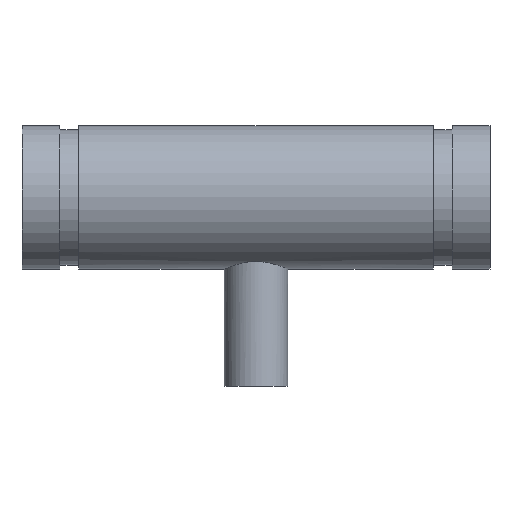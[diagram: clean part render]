
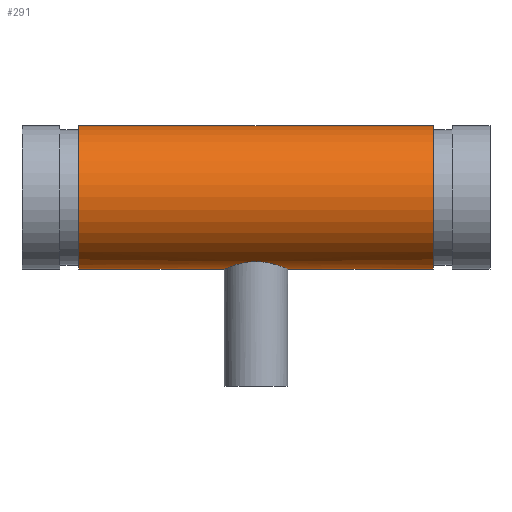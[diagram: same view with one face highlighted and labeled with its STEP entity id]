
A CAD part, top view. The second image highlights one B-rep face of the part: STEP entity #291.
In plain terms, the highlighted cylindrical face has radius 30.163 mm (diameter 60.325 mm), a full revolution.
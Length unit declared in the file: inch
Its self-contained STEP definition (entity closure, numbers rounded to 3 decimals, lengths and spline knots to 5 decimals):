
#45=B_SPLINE_CURVE_WITH_KNOTS('',3,(#511,#512,#513,#514,#515,#516,#517,
#518,#519,#520,#521,#522,#523,#524,#525,#526,#527,#528,#529,#530,#531,#532,
#533,#534,#535,#536,#537,#538,#539,#540,#541,#542,#543,#544,#545,#546,#547,
#548),.UNSPECIFIED.,.F.,.F.,(4,2,2,2,2,2,2,2,2,2,2,2,2,2,2,2,2,2,4),(0.,
0.25524,0.51049,1.02097,1.53066,1.7855,
2.04035,2.29519,2.55003,3.05972,3.57021,
3.82545,4.0807,4.33594,4.59118,5.10167,
5.61136,5.8662,6.12104),.UNSPECIFIED.);
#46=B_SPLINE_CURVE_WITH_KNOTS('',3,(#549,#550,#551,#552,#553,#554,#555,
#556,#557,#558,#559,#560,#561,#562),.UNSPECIFIED.,.F.,.F.,(4,2,2,2,2,2,
4),(6.12104,6.37589,6.63073,7.14042,
7.6509,7.90615,8.16139),.UNSPECIFIED.);
#51=LINE('',#508,#59);
#59=VECTOR('',#410,1.1875);
#67=CYLINDRICAL_SURFACE('',#338,1.1875);
#77=FACE_BOUND('',#108,.T.);
#88=FACE_OUTER_BOUND('',#107,.T.);
#107=EDGE_LOOP('',(#221,#222,#223,#224));
#108=EDGE_LOOP('',(#225,#226));
#121=CIRCLE('',#321,1.1875);
#132=CIRCLE('',#337,1.1875);
#141=VERTEX_POINT('',#476);
#152=VERTEX_POINT('',#505);
#153=VERTEX_POINT('',#509);
#154=VERTEX_POINT('',#510);
#165=EDGE_CURVE('',#141,#141,#121,.T.);
#178=EDGE_CURVE('',#152,#152,#132,.T.);
#179=EDGE_CURVE('',#152,#141,#51,.T.);
#180=EDGE_CURVE('',#153,#154,#45,.T.);
#181=EDGE_CURVE('',#154,#153,#46,.T.);
#221=ORIENTED_EDGE('',*,*,#178,.T.);
#222=ORIENTED_EDGE('',*,*,#179,.T.);
#223=ORIENTED_EDGE('',*,*,#165,.T.);
#224=ORIENTED_EDGE('',*,*,#179,.F.);
#225=ORIENTED_EDGE('',*,*,#180,.F.);
#226=ORIENTED_EDGE('',*,*,#181,.F.);
#291=ADVANCED_FACE('',(#88,#77),#67,.T.);
#321=AXIS2_PLACEMENT_3D('',#477,#372,#373);
#337=AXIS2_PLACEMENT_3D('',#506,#406,#407);
#338=AXIS2_PLACEMENT_3D('',#507,#408,#409);
#372=DIRECTION('center_axis',(-1.,0.,0.));
#373=DIRECTION('ref_axis',(0.,-1.,0.));
#406=DIRECTION('center_axis',(1.,0.,0.));
#407=DIRECTION('ref_axis',(0.,-1.,0.));
#408=DIRECTION('center_axis',(-1.,0.,0.));
#409=DIRECTION('ref_axis',(0.,-1.,0.));
#410=DIRECTION('',(1.,0.,0.));
#476=CARTESIAN_POINT('',(2.942,1.1875,0.));
#477=CARTESIAN_POINT('Origin',(2.942,0.,0.));
#505=CARTESIAN_POINT('',(-2.942,1.1875,0.));
#506=CARTESIAN_POINT('Origin',(-2.942,0.,0.));
#507=CARTESIAN_POINT('Origin',(3.88,0.,0.));
#508=CARTESIAN_POINT('',(3.88,1.1875,0.));
#509=CARTESIAN_POINT('',(0.,-1.06514,-0.525));
#510=CARTESIAN_POINT('',(-0.525,-1.1875,0.));
#511=CARTESIAN_POINT('Ctrl Pts',(0.,-1.06514,
-0.525));
#512=CARTESIAN_POINT('Ctrl Pts',(0.0335,-1.06514,-0.525));
#513=CARTESIAN_POINT('Ctrl Pts',(0.06796,-1.06677,-0.52174));
#514=CARTESIAN_POINT('Ctrl Pts',(0.13618,-1.07328,-0.50822));
#515=CARTESIAN_POINT('Ctrl Pts',(0.16994,-1.07815,-0.49796));
#516=CARTESIAN_POINT('Ctrl Pts',(0.26669,-1.09619,-0.45759));
#517=CARTESIAN_POINT('Ctrl Pts',(0.32509,-1.1128,-0.41737));
#518=CARTESIAN_POINT('Ctrl Pts',(0.4173,-1.14314,-0.32517));
#519=CARTESIAN_POINT('Ctrl Pts',(0.45757,-1.15901,-0.26673));
#520=CARTESIAN_POINT('Ctrl Pts',(0.49798,-1.17574,-0.1699));
#521=CARTESIAN_POINT('Ctrl Pts',(0.50824,-1.18017,-0.13612));
#522=CARTESIAN_POINT('Ctrl Pts',(0.52175,-1.18605,-0.06789));
#523=CARTESIAN_POINT('Ctrl Pts',(0.525,-1.1875,-0.03344));
#524=CARTESIAN_POINT('Ctrl Pts',(0.525,-1.1875,0.03344));
#525=CARTESIAN_POINT('Ctrl Pts',(0.52175,-1.18605,0.06789));
#526=CARTESIAN_POINT('Ctrl Pts',(0.50824,-1.18017,0.13612));
#527=CARTESIAN_POINT('Ctrl Pts',(0.49798,-1.17574,0.1699));
#528=CARTESIAN_POINT('Ctrl Pts',(0.45757,-1.15901,0.26673));
#529=CARTESIAN_POINT('Ctrl Pts',(0.4173,-1.14314,0.32517));
#530=CARTESIAN_POINT('Ctrl Pts',(0.32509,-1.1128,0.41737));
#531=CARTESIAN_POINT('Ctrl Pts',(0.26669,-1.09619,0.45759));
#532=CARTESIAN_POINT('Ctrl Pts',(0.16994,-1.07815,0.49796));
#533=CARTESIAN_POINT('Ctrl Pts',(0.13618,-1.07328,0.50822));
#534=CARTESIAN_POINT('Ctrl Pts',(0.06796,-1.06677,0.52174));
#535=CARTESIAN_POINT('Ctrl Pts',(0.0335,-1.06514,0.525));
#536=CARTESIAN_POINT('Ctrl Pts',(-0.0335,-1.06514,
0.525));
#537=CARTESIAN_POINT('Ctrl Pts',(-0.06796,-1.06677,
0.52174));
#538=CARTESIAN_POINT('Ctrl Pts',(-0.13618,-1.07328,0.50822));
#539=CARTESIAN_POINT('Ctrl Pts',(-0.16994,-1.07815,0.49796));
#540=CARTESIAN_POINT('Ctrl Pts',(-0.26669,-1.09619,0.45759));
#541=CARTESIAN_POINT('Ctrl Pts',(-0.32509,-1.1128,0.41737));
#542=CARTESIAN_POINT('Ctrl Pts',(-0.4173,-1.14314,0.32517));
#543=CARTESIAN_POINT('Ctrl Pts',(-0.45757,-1.15901,0.26673));
#544=CARTESIAN_POINT('Ctrl Pts',(-0.49798,-1.17574,0.1699));
#545=CARTESIAN_POINT('Ctrl Pts',(-0.50824,-1.18017,0.13612));
#546=CARTESIAN_POINT('Ctrl Pts',(-0.52175,-1.18605,0.06789));
#547=CARTESIAN_POINT('Ctrl Pts',(-0.525,-1.1875,0.03344));
#548=CARTESIAN_POINT('Ctrl Pts',(-0.525,-1.1875,0.));
#549=CARTESIAN_POINT('Ctrl Pts',(-0.525,-1.1875,0.));
#550=CARTESIAN_POINT('Ctrl Pts',(-0.525,-1.1875,-0.03344));
#551=CARTESIAN_POINT('Ctrl Pts',(-0.52175,-1.18605,-0.06789));
#552=CARTESIAN_POINT('Ctrl Pts',(-0.50824,-1.18017,-0.13612));
#553=CARTESIAN_POINT('Ctrl Pts',(-0.49798,-1.17574,-0.1699));
#554=CARTESIAN_POINT('Ctrl Pts',(-0.45757,-1.15901,-0.26673));
#555=CARTESIAN_POINT('Ctrl Pts',(-0.4173,-1.14314,-0.32517));
#556=CARTESIAN_POINT('Ctrl Pts',(-0.32509,-1.1128,-0.41737));
#557=CARTESIAN_POINT('Ctrl Pts',(-0.26669,-1.09619,-0.45759));
#558=CARTESIAN_POINT('Ctrl Pts',(-0.16994,-1.07815,-0.49796));
#559=CARTESIAN_POINT('Ctrl Pts',(-0.13618,-1.07328,-0.50822));
#560=CARTESIAN_POINT('Ctrl Pts',(-0.06796,-1.06677,
-0.52174));
#561=CARTESIAN_POINT('Ctrl Pts',(-0.0335,-1.06514,
-0.525));
#562=CARTESIAN_POINT('Ctrl Pts',(0.,-1.06514,-0.525));
